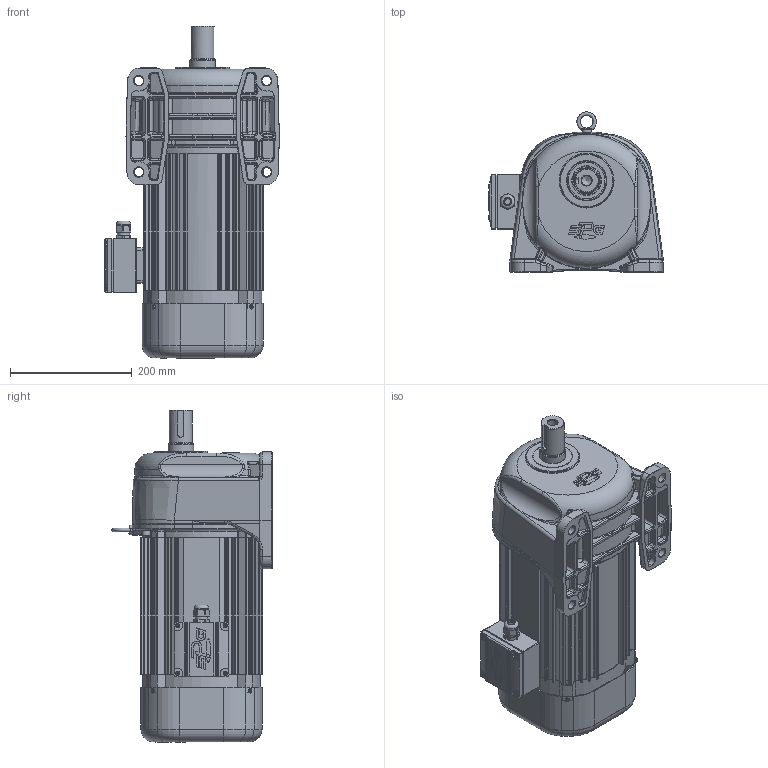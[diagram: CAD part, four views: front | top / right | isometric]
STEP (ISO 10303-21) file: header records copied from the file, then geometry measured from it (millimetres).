
FILE_DESCRIPTION(/* description */ (''),/* implementation_level */ '2;1');
FILE_NAME(/* name */ 'Z:\동력 3D 파일\PAL40-(5~30)-PC(D)220[ ]L_(3D).stp',/* time_stamp */ '2021-10-19T08:46:11+09:00',/* author */ ('jaebok'),/* organization */ (''),/* preprocessor_version */ 'ST-DEVELOPER v18.1',/* originating_system */ 'Autodesk Inventor 2022',/* authorisation */ '');
FILE_SCHEMA (('AUTOMOTIVE_DESIGN { 1 0 10303 214 3 1 1 }'));
Length unit declared in the file: millimetre
Products named in the file (1): 부품4
Bounding box: 287 x 263.22 x 545.6 mm (x, y, z)
Volume: 5425476.7 mm3; surface area: 1273043.8 mm2
Topology: 1 solids, 32 shells, 4001 faces, 9972 edges, 5939 vertices
Faces by surface type: cylinder 1152, plane 1129, bspline 1060, torus 358, cone 214, sphere 88
Full cylindrical faces by diameter (mm): 2 x1, 3.242 x4, 3.25 x1, 3.6 x4, 4 x21, 5 x13, 6 x5, 6.647 x5, 6.8 x4, 7 x9, 8 x9, 8.8 x4, 9 x4, 10 x1, 12 x4, 12.5 x1, 13 x4, 15 x5, 16 x1, 20 x2, 20.6 x1, 21 x1, 23.5 x1, 23.6 x1, 25 x1, 28 x1, 36 x1, 38 x1, 39.6 x1, 40 x1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
Entity records: 158820 total; most frequent: CARTESIAN_POINT 65747, ORIENTED_EDGE 19556, DIRECTION 17416, EDGE_CURVE 9778, AXIS2_PLACEMENT_3D 7053, VERTEX_POINT 5938, EDGE_LOOP 4225, FACE_OUTER_BOUND 4001
